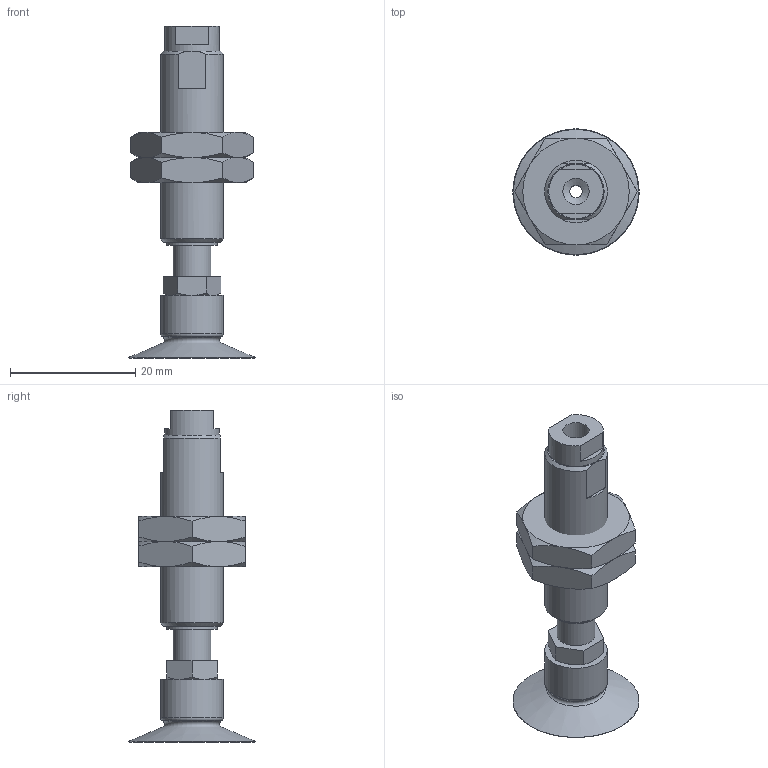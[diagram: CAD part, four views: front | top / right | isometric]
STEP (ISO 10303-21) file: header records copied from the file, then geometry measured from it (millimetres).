
FILE_DESCRIPTION(('STEP AP203'),'1');
FILE_NAME('-LB.stp','2025-04-01T04:54:51',(' '),(' '),'Spatial InterOp 3D',' ',' ');
FILE_SCHEMA(('CONFIG_CONTROL_DESIGN'));
Length unit declared in the file: millimetre
Products named in the file (8): BNAPFTH-10A-5-※-LB; __; BODY; NUT; TN-PS-10-M5; Setting screws-TN-PS-10-M5; BPAG-20A-※
Assembly tree (7 placements, depth 3):
  BNAPFTH-10A-5-※-LB
    __
    BODY
    NUT
    NUT
    TN-PS-10-M5
      Setting screws-TN-PS-10-M5
    BPAG-20A-※
Bounding box: 20.19 x 20.19 x 53 mm (x, y, z)
Volume: 4863.8 mm3; surface area: 4593.9 mm2
Topology: 6 solids, 6 shells, 162 faces, 320 edges, 196 vertices
Faces by surface type: plane 76, cone 41, cylinder 36, torus 9
Full cylindrical faces by diameter (mm): 0.9 x4, 1.1 x14, 2 x3, 3.9 x1, 4 x2, 4.2 x2, 5 x1, 6 x3, 8 x1, 8.7 x1, 9 x2, 10 x2
Entity records: 4334 total; most frequent: CARTESIAN_POINT 849, DIRECTION 668, ORIENTED_EDGE 516, AXIS2_PLACEMENT_3D 303, EDGE_CURVE 258, EDGE_LOOP 254, FACE_OUTER_BOUND 207, VERTEX_POINT 188
